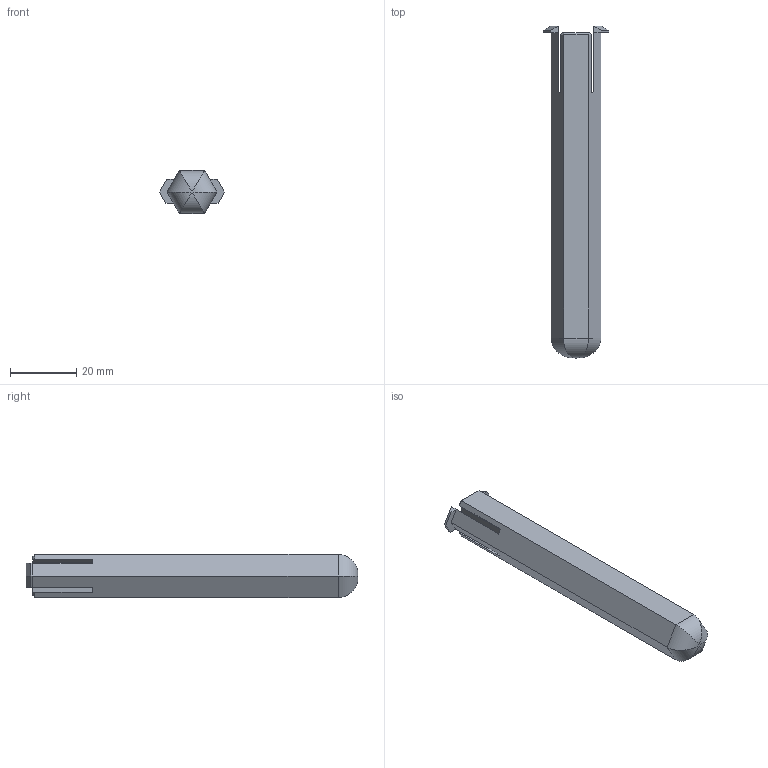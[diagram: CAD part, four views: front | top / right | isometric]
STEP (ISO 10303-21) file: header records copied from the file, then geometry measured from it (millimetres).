
FILE_DESCRIPTION(/* description */ ('STEP AP242','CAx-IF Rec.Pracs.---Representation and Presentation of Product Manufacturing Information (PMI)---4.0---2014-10-13','CAx-IF Rec.Pracs.---3D Tessellated Geometry---0.4---2014-09-14','2;1'),/* implementation_level */ '2;1');
FILE_NAME(/* name */ '6451501e1e2c5217f3e26b6e',/* time_stamp */ '2023-05-02T18:02:06Z',/* author */ (''),/* organization */ (''),/* preprocessor_version */ 'ST-DEVELOPER v19.4',/* originating_system */ ' ',/* authorisation */ ' ');
FILE_SCHEMA (('AP242_MANAGED_MODEL_BASED_3D_ENGINEERING_MIM_LF { 1 0 10303 442 1 1 4 }'));
Length unit declared in the file: metre
Products named in the file (1): Peg Remover
Bounding box: 19.63 x 100 x 13 mm (x, y, z)
Volume: 13331.8 mm3; surface area: 5298.6 mm2
Topology: 1 solids, 1 shells, 48 faces, 124 edges, 78 vertices
Faces by surface type: plane 42, cylinder 6
Entity records: 1444 total; most frequent: CARTESIAN_POINT 251, ORIENTED_EDGE 248, DIRECTION 228, EDGE_CURVE 124, LINE 118, VECTOR 118, VERTEX_POINT 78, AXIS2_PLACEMENT_3D 55
